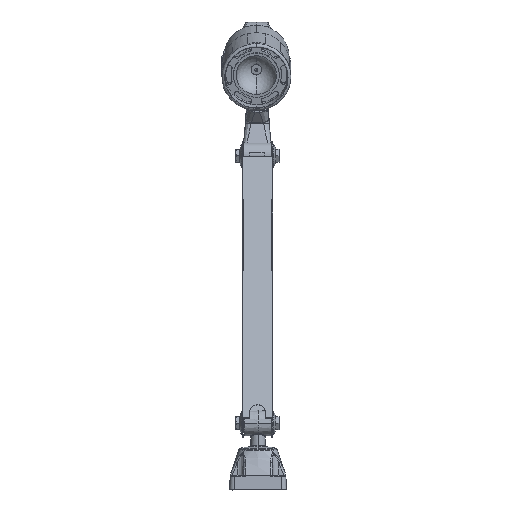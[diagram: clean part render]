
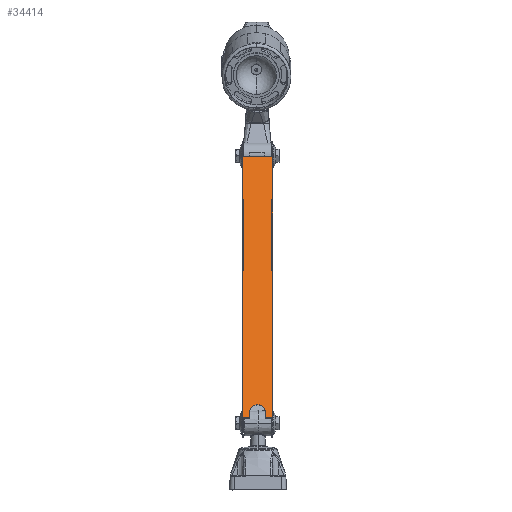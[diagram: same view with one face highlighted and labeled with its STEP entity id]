
A CAD part, left-side view. The second image highlights one B-rep face of the part: STEP entity #34414.
In plain terms, the highlighted planar face has unit normal (-0.94, 0, 0.342).
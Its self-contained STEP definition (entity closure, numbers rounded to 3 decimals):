
#5366=DIRECTION('',(0.342,0.,0.94));
#5367=VECTOR('',#5366,0.256);
#5368=CARTESIAN_POINT('',(4.747,1.847,12.613));
#5369=LINE('',#5368,#5367);
#5390=DIRECTION('',(0.342,0.,0.94));
#5391=VECTOR('',#5390,0.02);
#5392=CARTESIAN_POINT('',(0.647,1.847,1.348));
#5393=LINE('',#5392,#5391);
#5459=DIRECTION('',(0.,1.,0.));
#5460=VECTOR('',#5459,1.22);
#5461=CARTESIAN_POINT('',(4.747,0.626,12.613));
#5462=LINE('',#5461,#5460);
#5471=CARTESIAN_POINT('',(0.748,1.236,1.625));
#5472=DIRECTION('',(-0.94,0.,0.342));
#5473=DIRECTION('',(0.,-1.,0.));
#5474=AXIS2_PLACEMENT_3D('',#5471,#5472,#5473);
#5476=CARTESIAN_POINT('',(0.748,1.236,1.625));
#5477=DIRECTION('',(-0.94,0.,0.342));
#5478=DIRECTION('',(0.342,0.,0.94));
#5479=AXIS2_PLACEMENT_3D('',#5476,#5477,#5478);
#5481=DIRECTION('',(-0.342,0.,-0.94));
#5482=VECTOR('',#5481,0.256);
#5483=CARTESIAN_POINT('',(4.835,0.626,12.853));
#5484=LINE('',#5483,#5482);
#5489=DIRECTION('',(-0.342,0.,-0.94));
#5490=VECTOR('',#5489,0.02);
#5491=CARTESIAN_POINT('',(0.654,0.626,
1.366));
#5492=LINE('',#5491,#5490);
#5575=DIRECTION('',(0.,-1.,0.));
#5576=VECTOR('',#5575,0.276);
#5577=CARTESIAN_POINT('',(0.654,0.902,
1.366));
#5578=LINE('',#5577,#5576);
#5579=DIRECTION('',(-0.342,0.,-0.94));
#5580=VECTOR('',#5579,0.276);
#5581=CARTESIAN_POINT('',(0.748,0.902,
1.625));
#5582=LINE('',#5581,#5580);
#5599=DIRECTION('',(0.342,0.,0.94));
#5600=VECTOR('',#5599,0.276);
#5601=CARTESIAN_POINT('',(0.654,1.571,1.366));
#5602=LINE('',#5601,#5600);
#5615=DIRECTION('',(0.,-1.,0.));
#5616=VECTOR('',#5615,0.276);
#5617=CARTESIAN_POINT('',(0.654,1.847,1.366));
#5618=LINE('',#5617,#5616);
#5623=DIRECTION('',(0.,-1.,0.));
#5624=VECTOR('',#5623,0.039);
#5625=CARTESIAN_POINT('',(0.647,0.626,
1.348));
#5626=LINE('',#5625,#5624);
#5637=DIRECTION('',(0.342,0.,0.94));
#5638=VECTOR('',#5637,12.244);
#5639=CARTESIAN_POINT('',(0.647,0.587,
1.348));
#5640=LINE('',#5639,#5638);
#5707=DIRECTION('',(0.,1.,0.));
#5708=VECTOR('',#5707,0.039);
#5709=CARTESIAN_POINT('',(4.835,0.587,12.853));
#5710=LINE('',#5709,#5708);
#6129=DIRECTION('',(0.,1.,0.));
#6130=VECTOR('',#6129,0.039);
#6131=CARTESIAN_POINT('',(4.835,1.847,12.853));
#6132=LINE('',#6131,#6130);
#6161=DIRECTION('',(-0.342,0.,-0.94));
#6162=VECTOR('',#6161,12.244);
#6163=CARTESIAN_POINT('',(4.835,1.886,12.853));
#6164=LINE('',#6163,#6162);
#6214=DIRECTION('',(0.,-1.,0.));
#6215=VECTOR('',#6214,0.039);
#6216=CARTESIAN_POINT('',(0.647,1.886,1.348));
#6217=LINE('',#6216,#6215);
#21608=CARTESIAN_POINT('',(4.835,0.626,
12.853));
#21609=CARTESIAN_POINT('',(4.747,0.626,
12.613));
#21610=VERTEX_POINT('',#21608);
#21611=VERTEX_POINT('',#21609);
#21616=CARTESIAN_POINT('',(0.654,0.626,
1.366));
#21617=VERTEX_POINT('',#21616);
#21618=CARTESIAN_POINT('',(0.647,0.626,
1.348));
#21619=VERTEX_POINT('',#21618);
#21650=CARTESIAN_POINT('',(4.747,1.847,12.613));
#21651=CARTESIAN_POINT('',(4.835,1.847,12.853));
#21652=VERTEX_POINT('',#21650);
#21653=VERTEX_POINT('',#21651);
#21654=CARTESIAN_POINT('',(4.835,0.587,
12.853));
#21655=VERTEX_POINT('',#21654);
#21656=CARTESIAN_POINT('',(0.647,0.587,
1.348));
#21657=VERTEX_POINT('',#21656);
#21658=CARTESIAN_POINT('',(0.654,0.902,
1.366));
#21659=VERTEX_POINT('',#21658);
#21660=CARTESIAN_POINT('',(0.748,0.902,
1.625));
#21661=VERTEX_POINT('',#21660);
#21662=CARTESIAN_POINT('',(0.863,1.236,
1.94));
#21663=VERTEX_POINT('',#21662);
#21664=CARTESIAN_POINT('',(0.748,1.571,
1.625));
#21665=VERTEX_POINT('',#21664);
#21666=CARTESIAN_POINT('',(0.654,1.571,
1.366));
#21667=VERTEX_POINT('',#21666);
#21668=CARTESIAN_POINT('',(0.654,1.847,
1.366));
#21669=VERTEX_POINT('',#21668);
#21670=CARTESIAN_POINT('',(0.647,1.847,
1.348));
#21671=VERTEX_POINT('',#21670);
#21672=CARTESIAN_POINT('',(0.647,1.886,
1.348));
#21673=VERTEX_POINT('',#21672);
#21674=CARTESIAN_POINT('',(4.835,1.886,12.853));
#21675=VERTEX_POINT('',#21674);
#34376=CARTESIAN_POINT('',(2.741,1.236,7.101));
#34377=DIRECTION('',(0.94,0.,-0.342));
#34378=DIRECTION('',(0.,-1.,0.));
#34379=AXIS2_PLACEMENT_3D('',#34376,#34377,#34378);
#34380=PLANE('',#34379);
#34381=ORIENTED_EDGE('',*,*,#34293,.F.);
#34382=ORIENTED_EDGE('',*,*,#34367,.F.);
#34384=ORIENTED_EDGE('',*,*,#34383,.F.);
#34386=ORIENTED_EDGE('',*,*,#34385,.F.);
#34388=ORIENTED_EDGE('',*,*,#34387,.F.);
#34390=ORIENTED_EDGE('',*,*,#34389,.F.);
#34392=ORIENTED_EDGE('',*,*,#34391,.F.);
#34394=ORIENTED_EDGE('',*,*,#34393,.F.);
#34396=ORIENTED_EDGE('',*,*,#34395,.F.);
#34398=ORIENTED_EDGE('',*,*,#34397,.T.);
#34400=ORIENTED_EDGE('',*,*,#34399,.T.);
#34402=ORIENTED_EDGE('',*,*,#34401,.F.);
#34404=ORIENTED_EDGE('',*,*,#34403,.F.);
#34405=ORIENTED_EDGE('',*,*,#34313,.F.);
#34407=ORIENTED_EDGE('',*,*,#34406,.F.);
#34409=ORIENTED_EDGE('',*,*,#34408,.F.);
#34411=ORIENTED_EDGE('',*,*,#34410,.F.);
#34412=EDGE_LOOP('',(#34381,#34382,#34384,#34386,#34388,#34390,#34392,#34394,
#34396,#34398,#34400,#34402,#34404,#34405,#34407,#34409,#34411));
#34413=FACE_OUTER_BOUND('',#34412,.F.);
#34414=ADVANCED_FACE('',(#34413),#34380,.F.);
#5475=CIRCLE('',#5474,0.335);
#5480=CIRCLE('',#5479,0.335);
#34293=EDGE_CURVE('',#21652,#21653,#5369,.T.);
#34313=EDGE_CURVE('',#21671,#21669,#5393,.T.);
#34367=EDGE_CURVE('',#21611,#21652,#5462,.T.);
#34383=EDGE_CURVE('',#21610,#21611,#5484,.T.);
#34385=EDGE_CURVE('',#21655,#21610,#5710,.T.);
#34387=EDGE_CURVE('',#21657,#21655,#5640,.T.);
#34389=EDGE_CURVE('',#21619,#21657,#5626,.T.);
#34391=EDGE_CURVE('',#21617,#21619,#5492,.T.);
#34393=EDGE_CURVE('',#21659,#21617,#5578,.T.);
#34395=EDGE_CURVE('',#21661,#21659,#5582,.T.);
#34397=EDGE_CURVE('',#21661,#21663,#5475,.T.);
#34399=EDGE_CURVE('',#21663,#21665,#5480,.T.);
#34401=EDGE_CURVE('',#21667,#21665,#5602,.T.);
#34403=EDGE_CURVE('',#21669,#21667,#5618,.T.);
#34406=EDGE_CURVE('',#21673,#21671,#6217,.T.);
#34408=EDGE_CURVE('',#21675,#21673,#6164,.T.);
#34410=EDGE_CURVE('',#21653,#21675,#6132,.T.);
